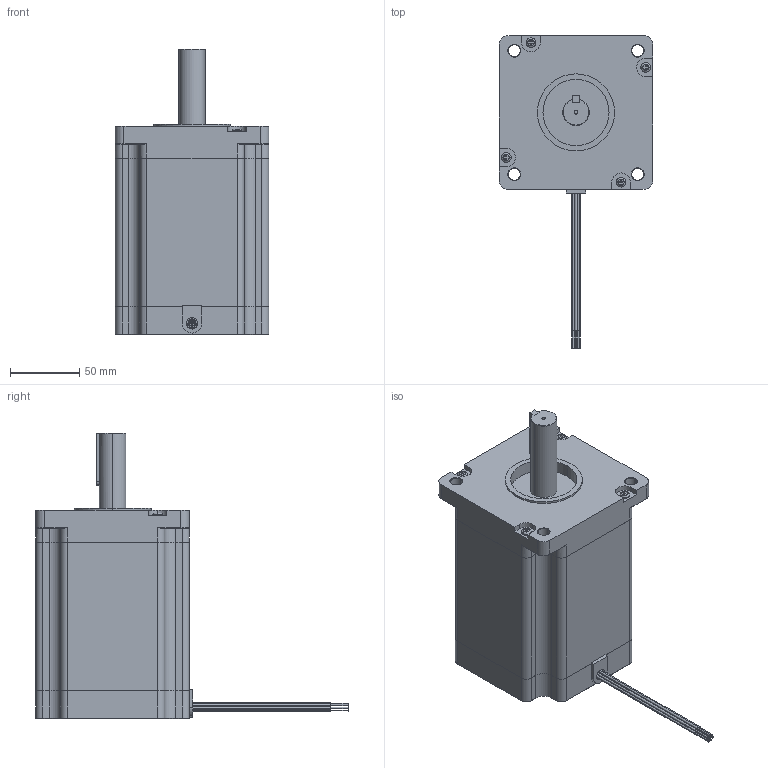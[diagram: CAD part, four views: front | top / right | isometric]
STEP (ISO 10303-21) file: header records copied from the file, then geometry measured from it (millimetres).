
FILE_DESCRIPTION (( 'STEP AP214' ), '1' );
FILE_NAME ('42Y202S-LW8.STEP', '2010-06-11T15:40:33', ( 'Tim Raines' ), ( 'Anaheim Automation' ), 'SwSTEP 2.0', 'SolidWorks 2010', '' );
FILE_SCHEMA (( 'AUTOMOTIVE_DESIGN' ));
Length unit declared in the file: inch
Products named in the file (1): 42Y202S-LW8
Bounding box: 110.62 x 224.92 x 205.61 mm (x, y, z)
Volume: 1658733.8 mm3; surface area: 99509.3 mm2
Topology: 1 solids, 1 shells, 360 faces, 905 edges, 573 vertices
Faces by surface type: plane 178, cylinder 121, cone 53, torus 8
Entity records: 15592 total; most frequent: CARTESIAN_POINT 2145, DIRECTION 1858, ORIENTED_EDGE 1794, EDGE_CURVE 897, AXIS2_PLACEMENT_3D 670, VERTEX_POINT 573, VECTOR 518, LINE 518
